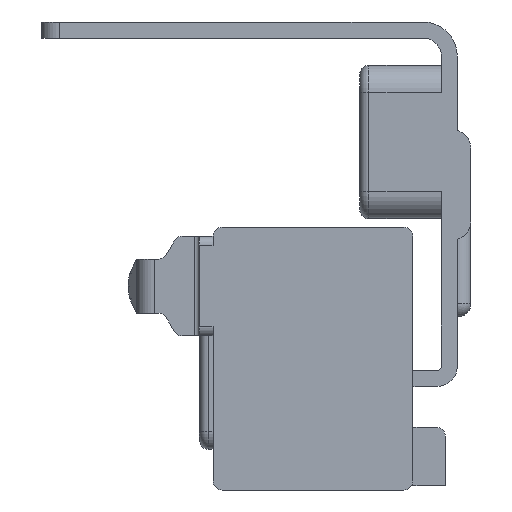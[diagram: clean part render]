
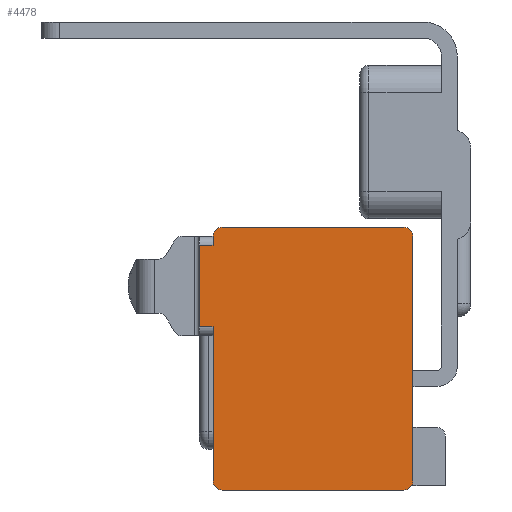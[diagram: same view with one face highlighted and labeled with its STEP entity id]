
A CAD part, left-side view. The second image highlights one B-rep face of the part: STEP entity #4478.
In plain terms, the highlighted planar face has unit normal (-1, 0, 0).
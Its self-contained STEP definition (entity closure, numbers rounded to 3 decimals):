
#172 = AXIS2_PLACEMENT_3D ( 'NONE', #3212, #3194, #3145 ) ;
#293 = CARTESIAN_POINT ( 'NONE',  ( -133., 5.9, 17.6 ) ) ;
#437 = DIRECTION ( 'NONE',  ( 0., 1., 0. ) ) ;
#486 = AXIS2_PLACEMENT_3D ( 'NONE', #6570, #3488, #437 ) ;
#494 = LINE ( 'NONE', #4124, #5758 ) ;
#525 = AXIS2_PLACEMENT_3D ( 'NONE', #1477, #1457, #1088 ) ;
#588 = CARTESIAN_POINT ( 'NONE',  ( -133., 5.9, 17.6 ) ) ;
#913 = VECTOR ( 'NONE', #4194, 1000. ) ;
#973 = VERTEX_POINT ( 'NONE', #3423 ) ;
#1053 = ORIENTED_EDGE ( 'NONE', *, *, #3047, .T. ) ;
#1061 = DIRECTION ( 'NONE',  ( 0., 1., 0. ) ) ;
#1088 = DIRECTION ( 'NONE',  ( 0., 0., 1. ) ) ;
#1113 = CIRCLE ( 'NONE', #4933, 1. ) ;
#1206 = EDGE_CURVE ( 'NONE', #6271, #2336, #3576, .T. ) ;
#1215 = AXIS2_PLACEMENT_3D ( 'NONE', #6360, #6293, #6342 ) ;
#1342 = CARTESIAN_POINT ( 'NONE',  ( -133., 4.9, 16.6 ) ) ;
#1456 = CARTESIAN_POINT ( 'NONE',  ( -133., 5.9, -11.43 ) ) ;
#1457 = DIRECTION ( 'NONE',  ( 1., 0., 0. ) ) ;
#1477 = CARTESIAN_POINT ( 'NONE',  ( -133., 28.5, 16.6 ) ) ;
#1478 = EDGE_CURVE ( 'NONE', #4899, #4109, #2513, .T. ) ;
#1526 = CARTESIAN_POINT ( 'NONE',  ( -133., 26., 16.6 ) ) ;
#1555 = DIRECTION ( 'NONE',  ( -1., 0., 0. ) ) ;
#1639 = CARTESIAN_POINT ( 'NONE',  ( -133., 27., -10.43 ) ) ;
#1730 = CARTESIAN_POINT ( 'NONE',  ( -133., 27., 15.6 ) ) ;
#1749 = CARTESIAN_POINT ( 'NONE',  ( -133., 27., 16.6 ) ) ;
#1814 = DIRECTION ( 'NONE',  ( 0., 1., 0. ) ) ;
#1842 = VERTEX_POINT ( 'NONE', #1730 ) ;
#1909 = VERTEX_POINT ( 'NONE', #4212 ) ;
#1997 = EDGE_CURVE ( 'NONE', #3070, #5020, #5319, .T. ) ;
#2133 = VECTOR ( 'NONE', #4192, 1000. ) ;
#2336 = VERTEX_POINT ( 'NONE', #3096 ) ;
#2359 = DIRECTION ( 'NONE',  ( 0., -1., 0. ) ) ;
#2513 = LINE ( 'NONE', #4360, #5234 ) ;
#2572 = ORIENTED_EDGE ( 'NONE', *, *, #3099, .T. ) ;
#2625 = DIRECTION ( 'NONE',  ( 0., 0., 1. ) ) ;
#2671 = CARTESIAN_POINT ( 'NONE',  ( -133., 28.5, 6.6 ) ) ;
#2741 = ORIENTED_EDGE ( 'NONE', *, *, #6052, .T. ) ;
#2777 = EDGE_CURVE ( 'NONE', #1842, #4899, #494, .T. ) ;
#2807 = ORIENTED_EDGE ( 'NONE', *, *, #2777, .T. ) ;
#2920 = DIRECTION ( 'NONE',  ( 0., 0., -1. ) ) ;
#2952 = VECTOR ( 'NONE', #1061, 1000. ) ;
#2988 = LINE ( 'NONE', #5689, #5714 ) ;
#3047 = EDGE_CURVE ( 'NONE', #4214, #973, #5679, .T. ) ;
#3070 = VERTEX_POINT ( 'NONE', #3345 ) ;
#3096 = CARTESIAN_POINT ( 'NONE',  ( -133., 4.9, -10.43 ) ) ;
#3099 = EDGE_CURVE ( 'NONE', #973, #3338, #1113, .T. ) ;
#3145 = DIRECTION ( 'NONE',  ( 0., 1., 0. ) ) ;
#3194 = DIRECTION ( 'NONE',  ( -1., 0., 0. ) ) ;
#3212 = CARTESIAN_POINT ( 'NONE',  ( -133., 26., -10.43 ) ) ;
#3338 = VERTEX_POINT ( 'NONE', #1749 ) ;
#3345 = CARTESIAN_POINT ( 'NONE',  ( -133., 27., -10.43 ) ) ;
#3423 = CARTESIAN_POINT ( 'NONE',  ( -133., 26., 17.6 ) ) ;
#3487 = DIRECTION ( 'NONE',  ( 0., 1., 0. ) ) ;
#3488 = DIRECTION ( 'NONE',  ( -1., 0., 0. ) ) ;
#3498 = LINE ( 'NONE', #2671, #4716 ) ;
#3529 = DIRECTION ( 'NONE',  ( 0., -1., 0. ) ) ;
#3576 = CIRCLE ( 'NONE', #1215, 1. ) ;
#3626 = PLANE ( 'NONE',  #525 ) ;
#3745 = CARTESIAN_POINT ( 'NONE',  ( -133., 26., -11.43 ) ) ;
#3835 = VERTEX_POINT ( 'NONE', #1342 ) ;
#3836 = LINE ( 'NONE', #1456, #5187 ) ;
#3860 = ORIENTED_EDGE ( 'NONE', *, *, #4138, .T. ) ;
#3995 = FACE_OUTER_BOUND ( 'NONE', #6020, .T. ) ;
#4109 = VERTEX_POINT ( 'NONE', #4801 ) ;
#4124 = CARTESIAN_POINT ( 'NONE',  ( -133., 28.5, 15.6 ) ) ;
#4138 = EDGE_CURVE ( 'NONE', #4109, #1909, #3498, .T. ) ;
#4192 = DIRECTION ( 'NONE',  ( 0., 0., -1. ) ) ;
#4194 = DIRECTION ( 'NONE',  ( 0., 0., -1. ) ) ;
#4212 = CARTESIAN_POINT ( 'NONE',  ( -133., 27., 6.6 ) ) ;
#4214 = VERTEX_POINT ( 'NONE', #293 ) ;
#4360 = CARTESIAN_POINT ( 'NONE',  ( -133., 28.5, 16.6 ) ) ;
#4478 = ADVANCED_FACE ( 'NONE', ( #3995 ), #3626, .F. ) ;
#4710 = CARTESIAN_POINT ( 'NONE',  ( -133., 27., -10.43 ) ) ;
#4716 = VECTOR ( 'NONE', #2359, 1000. ) ;
#4801 = CARTESIAN_POINT ( 'NONE',  ( -133., 28.5, 6.6 ) ) ;
#4899 = VERTEX_POINT ( 'NONE', #5687 ) ;
#4933 = AXIS2_PLACEMENT_3D ( 'NONE', #1526, #1555, #1814 ) ;
#4943 = ORIENTED_EDGE ( 'NONE', *, *, #5816, .T. ) ;
#5020 = VERTEX_POINT ( 'NONE', #3745 ) ;
#5058 = ORIENTED_EDGE ( 'NONE', *, *, #1997, .T. ) ;
#5187 = VECTOR ( 'NONE', #3529, 1000. ) ;
#5234 = VECTOR ( 'NONE', #2920, 1000. ) ;
#5264 = EDGE_CURVE ( 'NONE', #3835, #4214, #6144, .T. ) ;
#5319 = CIRCLE ( 'NONE', #172, 1. ) ;
#5463 = EDGE_CURVE ( 'NONE', #1909, #3070, #6058, .T. ) ;
#5487 = ORIENTED_EDGE ( 'NONE', *, *, #1206, .T. ) ;
#5679 = LINE ( 'NONE', #588, #2952 ) ;
#5687 = CARTESIAN_POINT ( 'NONE',  ( -133., 28.5, 15.6 ) ) ;
#5689 = CARTESIAN_POINT ( 'NONE',  ( -133., 4.9, 16.6 ) ) ;
#5714 = VECTOR ( 'NONE', #2625, 1000. ) ;
#5758 = VECTOR ( 'NONE', #3487, 1000. ) ;
#5816 = EDGE_CURVE ( 'NONE', #5020, #6271, #3836, .T. ) ;
#5914 = CARTESIAN_POINT ( 'NONE',  ( -133., 5.9, -11.43 ) ) ;
#6020 = EDGE_LOOP ( 'NONE', ( #4943, #5487, #6409, #6562, #1053, #2572, #2741, #2807, #6190, #3860, #6355, #5058 ) ) ;
#6052 = EDGE_CURVE ( 'NONE', #3338, #1842, #6537, .T. ) ;
#6058 = LINE ( 'NONE', #4710, #2133 ) ;
#6144 = CIRCLE ( 'NONE', #486, 1. ) ;
#6190 = ORIENTED_EDGE ( 'NONE', *, *, #1478, .T. ) ;
#6271 = VERTEX_POINT ( 'NONE', #5914 ) ;
#6293 = DIRECTION ( 'NONE',  ( -1., 0., 0. ) ) ;
#6342 = DIRECTION ( 'NONE',  ( 0., 1., 0. ) ) ;
#6355 = ORIENTED_EDGE ( 'NONE', *, *, #5463, .T. ) ;
#6360 = CARTESIAN_POINT ( 'NONE',  ( -133., 5.9, -10.43 ) ) ;
#6409 = ORIENTED_EDGE ( 'NONE', *, *, #6578, .T. ) ;
#6537 = LINE ( 'NONE', #1639, #913 ) ;
#6562 = ORIENTED_EDGE ( 'NONE', *, *, #5264, .T. ) ;
#6570 = CARTESIAN_POINT ( 'NONE',  ( -133., 5.9, 16.6 ) ) ;
#6578 = EDGE_CURVE ( 'NONE', #2336, #3835, #2988, .T. ) ;
